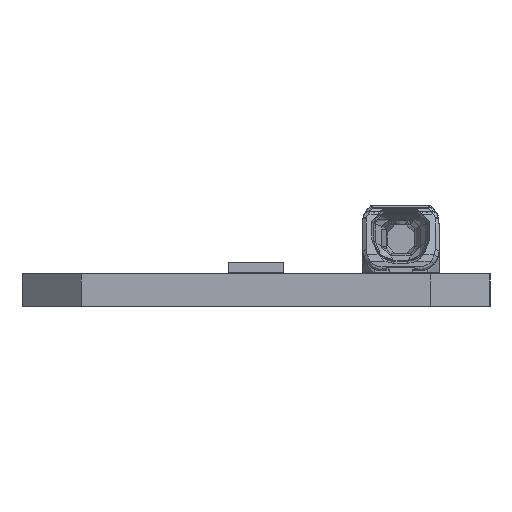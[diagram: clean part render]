
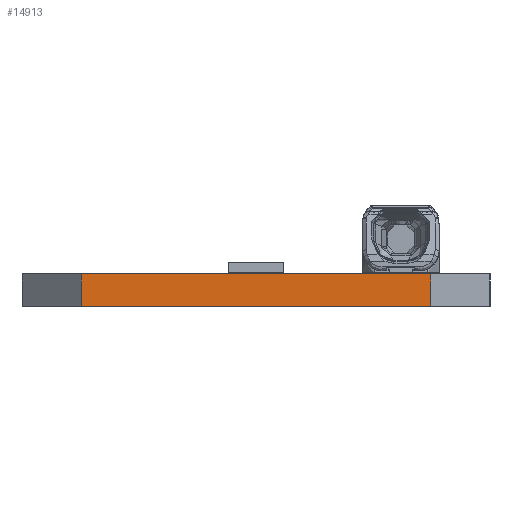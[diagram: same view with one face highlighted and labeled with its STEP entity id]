
A CAD part, left-side view. The second image highlights one B-rep face of the part: STEP entity #14913.
In plain terms, the highlighted planar face has unit normal (-1, 0, 0).
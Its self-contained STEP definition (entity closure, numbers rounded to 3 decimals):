
#341=DIRECTION('',(0.,1.,0.));
#342=VECTOR('',#341,17.6);
#343=CARTESIAN_POINT('',(-699.5,-8.8,1.65));
#344=LINE('',#343,#342);
#2566=DIRECTION('',(0.,0.,1.));
#2567=VECTOR('',#2566,1.65);
#2568=CARTESIAN_POINT('',(-699.5,-8.8,0.));
#2569=LINE('',#2568,#2567);
#6637=DIRECTION('',(0.,1.,0.));
#6638=VECTOR('',#6637,17.6);
#6639=CARTESIAN_POINT('',(-699.5,-8.8,0.));
#6640=LINE('',#6639,#6638);
#6644=DIRECTION('',(0.,0.,1.));
#6645=VECTOR('',#6644,1.65);
#6646=CARTESIAN_POINT('',(-699.5,8.8,0.));
#6647=LINE('',#6646,#6645);
#7883=CARTESIAN_POINT('',(-699.5,-8.8,0.));
#7884=VERTEX_POINT('',#7883);
#7885=CARTESIAN_POINT('',(-699.5,8.8,0.));
#7886=VERTEX_POINT('',#7885);
#8111=CARTESIAN_POINT('',(-699.5,8.8,1.65));
#8112=VERTEX_POINT('',#8111);
#8113=CARTESIAN_POINT('',(-699.5,-8.8,1.65));
#8114=VERTEX_POINT('',#8113);
#14902=CARTESIAN_POINT('',(-699.5,0.,0.825));
#14903=DIRECTION('',(1.,0.,0.));
#14904=DIRECTION('',(0.,0.,1.));
#14905=AXIS2_PLACEMENT_3D('',#14902,#14903,#14904);
#14906=PLANE('',#14905);
#14907=ORIENTED_EDGE('',*,*,#8806,.F.);
#14908=ORIENTED_EDGE('',*,*,#13333,.T.);
#14909=ORIENTED_EDGE('',*,*,#14887,.T.);
#14910=ORIENTED_EDGE('',*,*,#8193,.F.);
#14911=EDGE_LOOP('',(#14907,#14908,#14909,#14910));
#14912=FACE_OUTER_BOUND('',#14911,.F.);
#8193=EDGE_CURVE('',#8114,#8112,#344,.T.);
#8806=EDGE_CURVE('',#7884,#8114,#2569,.T.);
#13333=EDGE_CURVE('',#7884,#7886,#6640,.T.);
#14887=EDGE_CURVE('',#7886,#8112,#6647,.T.);
#14913=ADVANCED_FACE('',(#14912),#14906,.F.);
